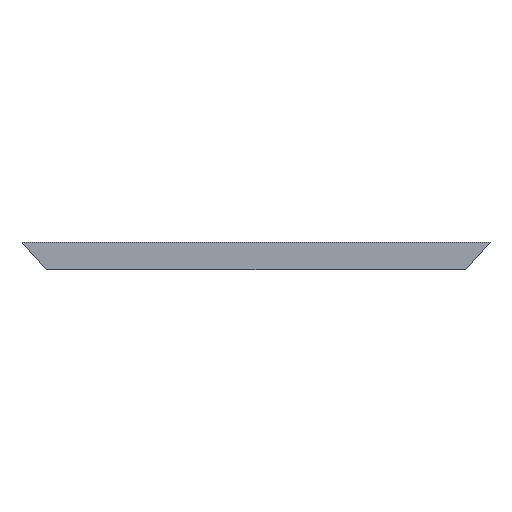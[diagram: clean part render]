
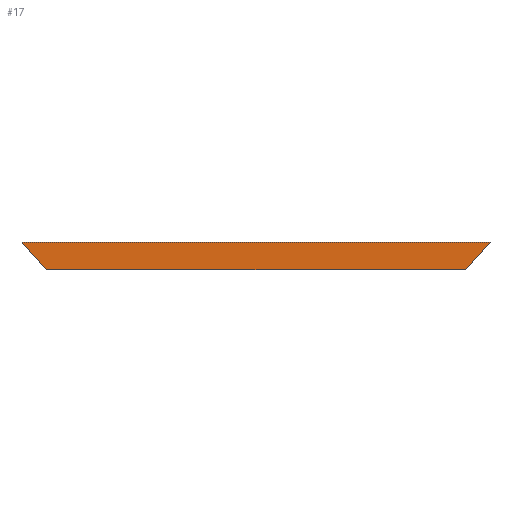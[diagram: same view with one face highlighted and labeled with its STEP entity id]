
A CAD part, left-side view. The second image highlights one B-rep face of the part: STEP entity #17.
In plain terms, the highlighted planar face has unit normal (-1, 0, 0).
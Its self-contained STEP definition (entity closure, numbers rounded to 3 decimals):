
#17 = ADVANCED_FACE('',(#18),#32,.F.);
#18 = FACE_BOUND('',#19,.F.);
#19 = EDGE_LOOP('',(#20,#55,#84,#112));
#20 = ORIENTED_EDGE('',*,*,#21,.F.);
#21 = EDGE_CURVE('',#22,#24,#26,.T.);
#22 = VERTEX_POINT('',#23);
#23 = CARTESIAN_POINT('',(38.,-12.922,-10.5));
#24 = VERTEX_POINT('',#25);
#25 = CARTESIAN_POINT('',(38.,12.922,-10.5));
#26 = SURFACE_CURVE('',#27,(#31,#43),.PCURVE_S1.);
#27 = LINE('',#28,#29);
#28 = CARTESIAN_POINT('',(38.,-15.5,-10.5));
#29 = VECTOR('',#30,1.);
#30 = DIRECTION('',(-0.,1.,0.));
#31 = PCURVE('',#32,#37);
#32 = PLANE('',#33);
#33 = AXIS2_PLACEMENT_3D('',#34,#35,#36);
#34 = CARTESIAN_POINT('',(38.,-15.5,-12.));
#35 = DIRECTION('',(1.,0.,-0.));
#36 = DIRECTION('',(0.,0.,1.));
#37 = DEFINITIONAL_REPRESENTATION('',(#38),#42);
#38 = LINE('',#39,#40);
#39 = CARTESIAN_POINT('',(1.5,0.));
#40 = VECTOR('',#41,1.);
#41 = DIRECTION('',(0.,-1.));
#42 = ( GEOMETRIC_REPRESENTATION_CONTEXT(2) 
PARAMETRIC_REPRESENTATION_CONTEXT() REPRESENTATION_CONTEXT('2D SPACE',''
  ) );
#43 = PCURVE('',#44,#49);
#44 = PLANE('',#45);
#45 = AXIS2_PLACEMENT_3D('',#46,#47,#48);
#46 = CARTESIAN_POINT('',(38.,-15.5,-10.5));
#47 = DIRECTION('',(0.,0.,1.));
#48 = DIRECTION('',(1.,0.,-0.));
#49 = DEFINITIONAL_REPRESENTATION('',(#50),#54);
#50 = LINE('',#51,#52);
#51 = CARTESIAN_POINT('',(0.,0.));
#52 = VECTOR('',#53,1.);
#53 = DIRECTION('',(0.,1.));
#54 = ( GEOMETRIC_REPRESENTATION_CONTEXT(2) 
PARAMETRIC_REPRESENTATION_CONTEXT() REPRESENTATION_CONTEXT('2D SPACE',''
  ) );
#55 = ORIENTED_EDGE('',*,*,#56,.T.);
#56 = EDGE_CURVE('',#22,#57,#59,.T.);
#57 = VERTEX_POINT('',#58);
#58 = CARTESIAN_POINT('',(38.,-11.542,-12.));
#59 = SURFACE_CURVE('',#60,(#65,#72),.PCURVE_S1.);
#60 = CIRCLE('',#61,16.65);
#61 = AXIS2_PLACEMENT_3D('',#62,#63,#64);
#62 = CARTESIAN_POINT('',(38.,0.,0.));
#63 = DIRECTION('',(1.,0.,0.));
#64 = DIRECTION('',(-0.,0.,1.));
#65 = PCURVE('',#32,#66);
#66 = DEFINITIONAL_REPRESENTATION('',(#67),#71);
#67 = CIRCLE('',#68,16.65);
#68 = AXIS2_PLACEMENT_2D('',#69,#70);
#69 = CARTESIAN_POINT('',(12.,-15.5));
#70 = DIRECTION('',(1.,0.));
#71 = ( GEOMETRIC_REPRESENTATION_CONTEXT(2) 
PARAMETRIC_REPRESENTATION_CONTEXT() REPRESENTATION_CONTEXT('2D SPACE',''
  ) );
#72 = PCURVE('',#73,#78);
#73 = CYLINDRICAL_SURFACE('',#74,16.65);
#74 = AXIS2_PLACEMENT_3D('',#75,#76,#77);
#75 = CARTESIAN_POINT('',(37.,0.,0.));
#76 = DIRECTION('',(1.,0.,0.));
#77 = DIRECTION('',(-0.,0.,1.));
#78 = DEFINITIONAL_REPRESENTATION('',(#79),#83);
#79 = LINE('',#80,#81);
#80 = CARTESIAN_POINT('',(0.,1.));
#81 = VECTOR('',#82,1.);
#82 = DIRECTION('',(1.,0.));
#83 = ( GEOMETRIC_REPRESENTATION_CONTEXT(2) 
PARAMETRIC_REPRESENTATION_CONTEXT() REPRESENTATION_CONTEXT('2D SPACE',''
  ) );
#84 = ORIENTED_EDGE('',*,*,#85,.T.);
#85 = EDGE_CURVE('',#57,#86,#88,.T.);
#86 = VERTEX_POINT('',#87);
#87 = CARTESIAN_POINT('',(38.,11.542,-12.));
#88 = SURFACE_CURVE('',#89,(#93,#100),.PCURVE_S1.);
#89 = LINE('',#90,#91);
#90 = CARTESIAN_POINT('',(38.,-15.5,-12.));
#91 = VECTOR('',#92,1.);
#92 = DIRECTION('',(-0.,1.,0.));
#93 = PCURVE('',#32,#94);
#94 = DEFINITIONAL_REPRESENTATION('',(#95),#99);
#95 = LINE('',#96,#97);
#96 = CARTESIAN_POINT('',(0.,0.));
#97 = VECTOR('',#98,1.);
#98 = DIRECTION('',(0.,-1.));
#99 = ( GEOMETRIC_REPRESENTATION_CONTEXT(2) 
PARAMETRIC_REPRESENTATION_CONTEXT() REPRESENTATION_CONTEXT('2D SPACE',''
  ) );
#100 = PCURVE('',#101,#106);
#101 = PLANE('',#102);
#102 = AXIS2_PLACEMENT_3D('',#103,#104,#105);
#103 = CARTESIAN_POINT('',(38.,-15.5,-12.));
#104 = DIRECTION('',(0.,0.,1.));
#105 = DIRECTION('',(1.,0.,-0.));
#106 = DEFINITIONAL_REPRESENTATION('',(#107),#111);
#107 = LINE('',#108,#109);
#108 = CARTESIAN_POINT('',(0.,0.));
#109 = VECTOR('',#110,1.);
#110 = DIRECTION('',(0.,1.));
#111 = ( GEOMETRIC_REPRESENTATION_CONTEXT(2) 
PARAMETRIC_REPRESENTATION_CONTEXT() REPRESENTATION_CONTEXT('2D SPACE',''
  ) );
#112 = ORIENTED_EDGE('',*,*,#113,.T.);
#113 = EDGE_CURVE('',#86,#24,#114,.T.);
#114 = SURFACE_CURVE('',#115,(#120,#127),.PCURVE_S1.);
#115 = CIRCLE('',#116,16.65);
#116 = AXIS2_PLACEMENT_3D('',#117,#118,#119);
#117 = CARTESIAN_POINT('',(38.,0.,0.));
#118 = DIRECTION('',(1.,0.,0.));
#119 = DIRECTION('',(-0.,0.,1.));
#120 = PCURVE('',#32,#121);
#121 = DEFINITIONAL_REPRESENTATION('',(#122),#126);
#122 = CIRCLE('',#123,16.65);
#123 = AXIS2_PLACEMENT_2D('',#124,#125);
#124 = CARTESIAN_POINT('',(12.,-15.5));
#125 = DIRECTION('',(1.,0.));
#126 = ( GEOMETRIC_REPRESENTATION_CONTEXT(2) 
PARAMETRIC_REPRESENTATION_CONTEXT() REPRESENTATION_CONTEXT('2D SPACE',''
  ) );
#127 = PCURVE('',#128,#133);
#128 = CYLINDRICAL_SURFACE('',#129,16.65);
#129 = AXIS2_PLACEMENT_3D('',#130,#131,#132);
#130 = CARTESIAN_POINT('',(37.,0.,0.));
#131 = DIRECTION('',(1.,0.,0.));
#132 = DIRECTION('',(-0.,0.,1.));
#133 = DEFINITIONAL_REPRESENTATION('',(#134),#138);
#134 = LINE('',#135,#136);
#135 = CARTESIAN_POINT('',(0.,1.));
#136 = VECTOR('',#137,1.);
#137 = DIRECTION('',(1.,0.));
#138 = ( GEOMETRIC_REPRESENTATION_CONTEXT(2) 
PARAMETRIC_REPRESENTATION_CONTEXT() REPRESENTATION_CONTEXT('2D SPACE',''
  ) );
